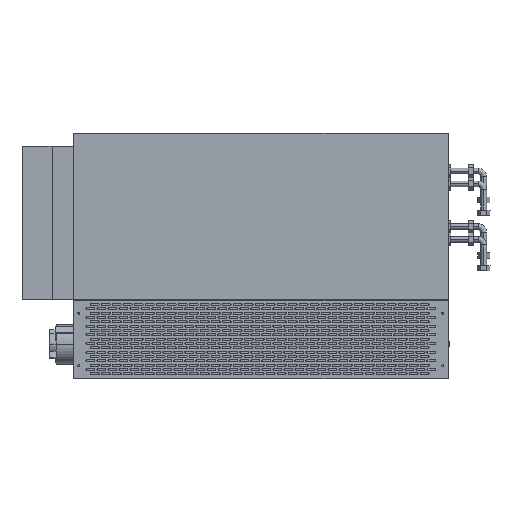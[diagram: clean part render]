
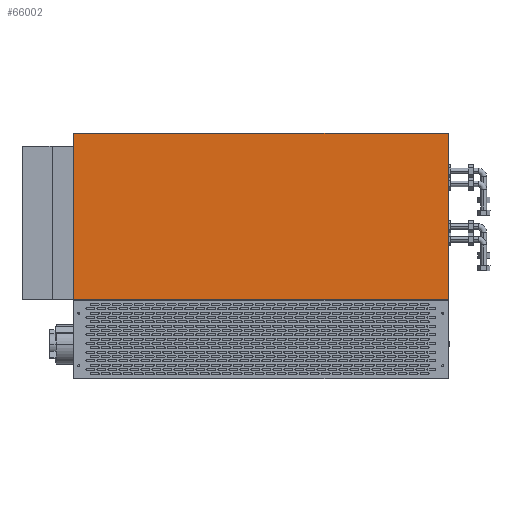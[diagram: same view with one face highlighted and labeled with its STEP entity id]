
A CAD part, top view. The second image highlights one B-rep face of the part: STEP entity #66002.
In plain terms, the highlighted planar face has unit normal (0, 0, 1).
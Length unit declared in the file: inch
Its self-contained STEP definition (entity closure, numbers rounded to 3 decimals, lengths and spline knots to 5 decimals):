
#479 = LINE ( 'NONE', #9963, #114362 ) ;
#5452 = CARTESIAN_POINT ( 'NONE',  ( -16.875, 22.125, 2.5625 ) ) ;
#8795 = CARTESIAN_POINT ( 'NONE',  ( -16.875, 7.164, 2.5625 ) ) ;
#9412 = DIRECTION ( 'NONE',  ( 0., 0., -1. ) ) ;
#9963 = CARTESIAN_POINT ( 'NONE',  ( 16.875, 22.125, 2.5625 ) ) ;
#14247 = EDGE_LOOP ( 'NONE', ( #32666, #116311, #53684, #121904 ) ) ;
#19742 = DIRECTION ( 'NONE',  ( -1., 0., 0. ) ) ;
#24110 = VERTEX_POINT ( 'NONE', #143776 ) ;
#24598 = VECTOR ( 'NONE', #39081, 39.37008 ) ;
#32666 = ORIENTED_EDGE ( 'NONE', *, *, #78431, .T. ) ;
#39081 = DIRECTION ( 'NONE',  ( 0., -1., 0. ) ) ;
#42241 = LINE ( 'NONE', #64102, #93622 ) ;
#53684 = ORIENTED_EDGE ( 'NONE', *, *, #132281, .F. ) ;
#58164 = EDGE_CURVE ( 'NONE', #60481, #24110, #42241, .T. ) ;
#60481 = VERTEX_POINT ( 'NONE', #5452 ) ;
#64102 = CARTESIAN_POINT ( 'NONE',  ( -16.875, 22.125, 2.5625 ) ) ;
#66002 = ADVANCED_FACE ( 'NONE', ( #99617 ), #96785, .F. ) ;
#67736 = AXIS2_PLACEMENT_3D ( 'NONE', #141123, #9412, #109830 ) ;
#77539 = VECTOR ( 'NONE', #19742, 39.37008 ) ;
#78431 = EDGE_CURVE ( 'NONE', #60481, #142046, #136634, .T. ) ;
#88090 = CARTESIAN_POINT ( 'NONE',  ( -16.875, 7.164, 2.5625 ) ) ;
#88810 = LINE ( 'NONE', #88090, #77539 ) ;
#93622 = VECTOR ( 'NONE', #96163, 39.37008 ) ;
#96163 = DIRECTION ( 'NONE',  ( 1., 0., 0. ) ) ;
#96785 = PLANE ( 'NONE',  #67736 ) ;
#99617 = FACE_OUTER_BOUND ( 'NONE', #14247, .T. ) ;
#100910 = DIRECTION ( 'NONE',  ( 0., -1., 0. ) ) ;
#109830 = DIRECTION ( 'NONE',  ( -1., 0., 0. ) ) ;
#114362 = VECTOR ( 'NONE', #100910, 39.37008 ) ;
#115538 = CARTESIAN_POINT ( 'NONE',  ( -16.875, 22.125, 2.5625 ) ) ;
#116311 = ORIENTED_EDGE ( 'NONE', *, *, #141966, .F. ) ;
#121904 = ORIENTED_EDGE ( 'NONE', *, *, #58164, .F. ) ;
#122699 = VERTEX_POINT ( 'NONE', #133841 ) ;
#132281 = EDGE_CURVE ( 'NONE', #24110, #122699, #479, .T. ) ;
#133841 = CARTESIAN_POINT ( 'NONE',  ( 16.875, 7.164, 2.5625 ) ) ;
#136634 = LINE ( 'NONE', #115538, #24598 ) ;
#141123 = CARTESIAN_POINT ( 'NONE',  ( -16.875, 22.125, 2.5625 ) ) ;
#141966 = EDGE_CURVE ( 'NONE', #122699, #142046, #88810, .T. ) ;
#142046 = VERTEX_POINT ( 'NONE', #8795 ) ;
#143776 = CARTESIAN_POINT ( 'NONE',  ( 16.875, 22.125, 2.5625 ) ) ;
